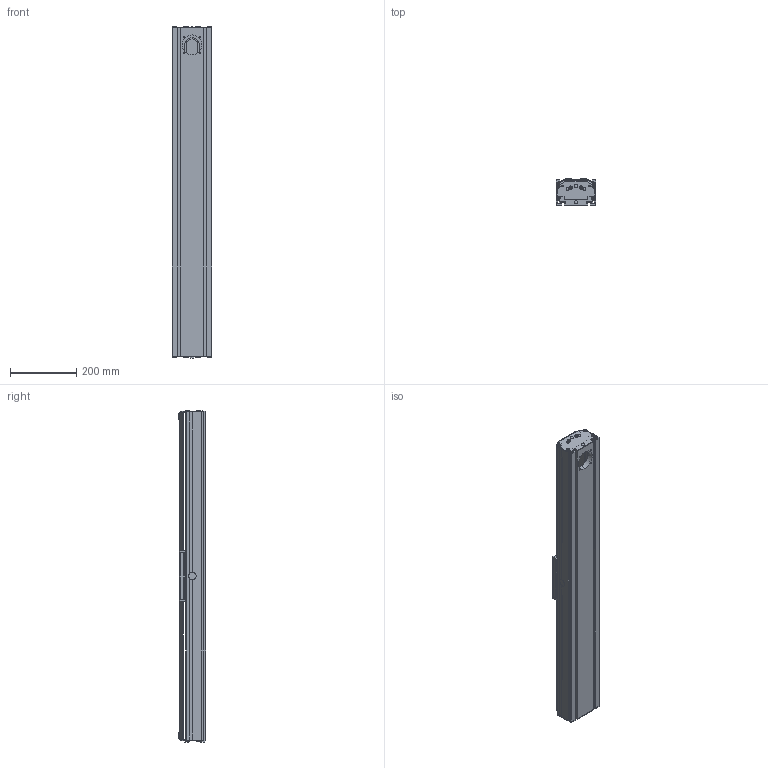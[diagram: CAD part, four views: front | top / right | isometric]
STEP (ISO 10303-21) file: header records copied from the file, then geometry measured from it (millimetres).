
FILE_DESCRIPTION (( 'STEP AP214' ), '1' );
FILE_NAME ('DLZPVI 120 .STEP', '2022-07-21T12:45:49', ( '' ), ( '' ), 'SwSTEP 2.0', 'SolidWorks 2020', '' );
FILE_SCHEMA (( 'AUTOMOTIVE_DESIGN' ));
Length unit declared in the file: millimetre
Products named in the file (5): end plate^DLZPVI 120 _Pos. 2; DLZPVI 120 ; carriage^DLZPVI 120 _carriage 0; end plate^DLZPVI 120 _Pos. 1; profile^DLZPVI 120 _standard
Assembly tree (4 placements, depth 2):
  DLZPVI 120 
    profile^DLZPVI 120 _standard
    carriage^DLZPVI 120 _carriage 0
    end plate^DLZPVI 120 _Pos. 1
    end plate^DLZPVI 120 _Pos. 2
Bounding box: 120 x 81.9 x 999.96 mm (x, y, z)
Volume: 3118696.8 mm3; surface area: 1103752.1 mm2
Topology: 12 solids, 12 shells, 765 faces, 1987 edges, 1290 vertices
Faces by surface type: plane 498, cylinder 189, bspline 54, sphere 16, cone 8
Entity records: 34815 total; most frequent: CARTESIAN_POINT 12907, ORIENTED_EDGE 3958, DIRECTION 3569, EDGE_CURVE 1979, VECTOR 1425, LINE 1425, VERTEX_POINT 1290, AXIS2_PLACEMENT_3D 1072
